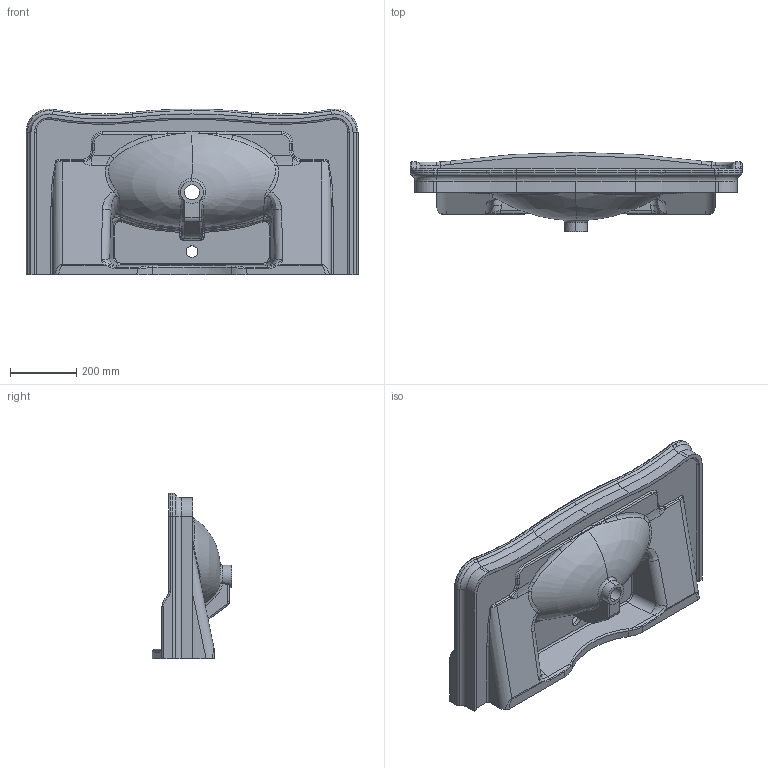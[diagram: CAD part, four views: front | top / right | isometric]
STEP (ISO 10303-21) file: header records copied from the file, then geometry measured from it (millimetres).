
FILE_DESCRIPTION (( 'STEP AP203' ), '1' );
FILE_NAME ('AN100.STEP', '2022-04-11T07:31:22', ( '' ), ( '' ), 'SwSTEP 2.0', 'SolidWorks 2021', '' );
FILE_SCHEMA (( 'CONFIG_CONTROL_DESIGN' ));
Products named in the file (1): AN100
Bounding box: 1000 x 239.26 x 500 mm (x, y, z)
Volume: 25537067.6 mm3; surface area: 1542653.1 mm2
Topology: 1 solids, 1 shells, 378 faces, 951 edges, 552 vertices
Faces by surface type: bspline 152, cylinder 112, torus 65, plane 49
Entity records: 37197 total; most frequent: CARTESIAN_POINT 29231, ORIENTED_EDGE 1866, DIRECTION 1447, EDGE_CURVE 933, AXIS2_PLACEMENT_3D 614, VERTEX_POINT 552, CIRCLE 387, EDGE_LOOP 385
